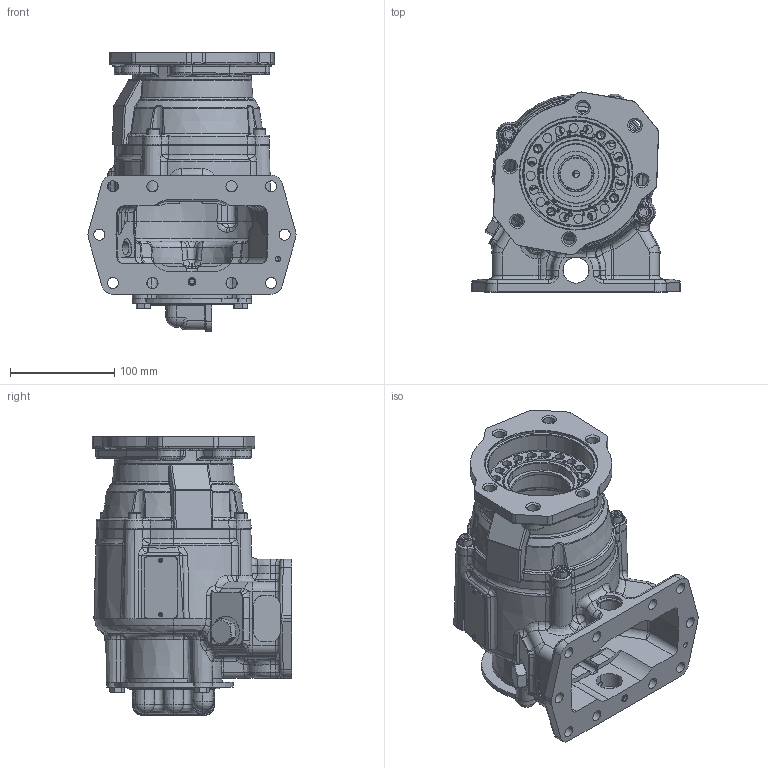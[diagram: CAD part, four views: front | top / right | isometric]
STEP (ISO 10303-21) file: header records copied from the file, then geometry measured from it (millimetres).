
FILE_DESCRIPTION (( 'STEP AP203' ), '1' );
FILE_NAME ('A30-A10XX-MX5BBPX.STEP', '2023-03-21T19:59:09', ( '' ), ( '' ), 'SwSTEP 2.0', 'SolidWorks 2021', '' );
FILE_SCHEMA (( 'CONFIG_CONTROL_DESIGN' ));
Length unit declared in the file: inch
Products named in the file (10): RemoteMountRearCover; 15T65391DB3; Part6^A30-A10XX-MX5BBPX; 19T3314_RearCover_HexHeadCapScrew_19T33134; 15T64348_DIECAST DESIGN; 19T36588_19T36588; 14T65388DB2; 01T43513_5Arrangement; 25T35999TMP; A30-A10XX-MX5BBPX
Assembly tree (13 placements, depth 2):
  Part6^A30-A10XX-MX5BBPX
  A30-A10XX-MX5BBPX
    01T43513_5Arrangement
    14T65388DB2
    15T65391DB3
    19T36588_19T36588  x4
    RemoteMountRearCover
    15T64348_DIECAST DESIGN
    19T3314_RearCover_HexHeadCapScrew_19T33134  x3
    25T35999TMP
Bounding box: 199.82 x 191.8 x 267.67 mm (x, y, z)
Volume: 1500083.4 mm3; surface area: 422670.4 mm2
Topology: 26 solids, 26 shells, 3716 faces, 9612 edges, 5990 vertices
Faces by surface type: plane 1314, bspline 1227, cylinder 619, cone 354, torus 190, sphere 12
Entity records: 156185 total; most frequent: CARTESIAN_POINT 74748, ORIENTED_EDGE 18550, DIRECTION 13861, EDGE_CURVE 9275, VERTEX_POINT 5847, AXIS2_PLACEMENT_3D 4652, VECTOR 4557, LINE 4557
